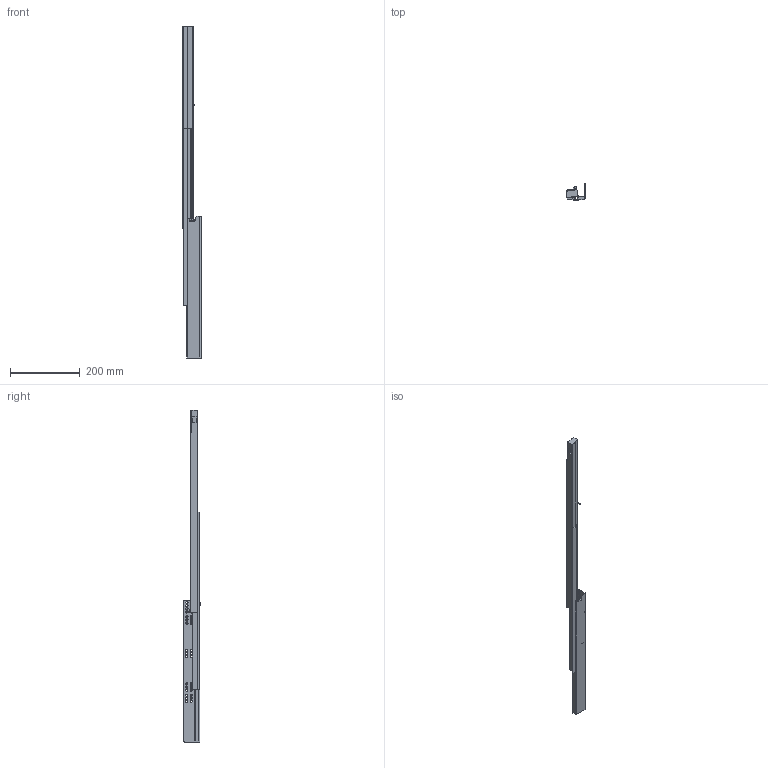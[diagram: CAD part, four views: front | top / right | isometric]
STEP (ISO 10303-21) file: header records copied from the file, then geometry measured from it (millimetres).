
FILE_DESCRIPTION (( 'STEP AP203' ), '1' );
FILE_NAME ('TS10600H-R-DTC3D-open.STEP', '2021-07-09T05:35:25', ( 'df' ), ( 'Microsoft' ), 'SwSTEP 2.0', 'SolidWorks 2018', '' );
FILE_SCHEMA (( 'CONFIG_CONTROL_DESIGN' ));
Length unit declared in the file: millimetre
Products named in the file (1): TS10600H-R-DTC3D-open
Bounding box: 51.73 x 48 x 949.3 mm (x, y, z)
Volume: 553994 mm3; surface area: 150631.3 mm2
Topology: 1 solids, 1 shells, 300 faces, 846 edges, 554 vertices
Faces by surface type: cylinder 120, plane 114, bspline 47, torus 15, sphere 4
Entity records: 11545 total; most frequent: CARTESIAN_POINT 3721, ORIENTED_EDGE 1684, DIRECTION 1503, EDGE_CURVE 842, VERTEX_POINT 554, AXIS2_PLACEMENT_3D 523, VECTOR 457, LINE 457
